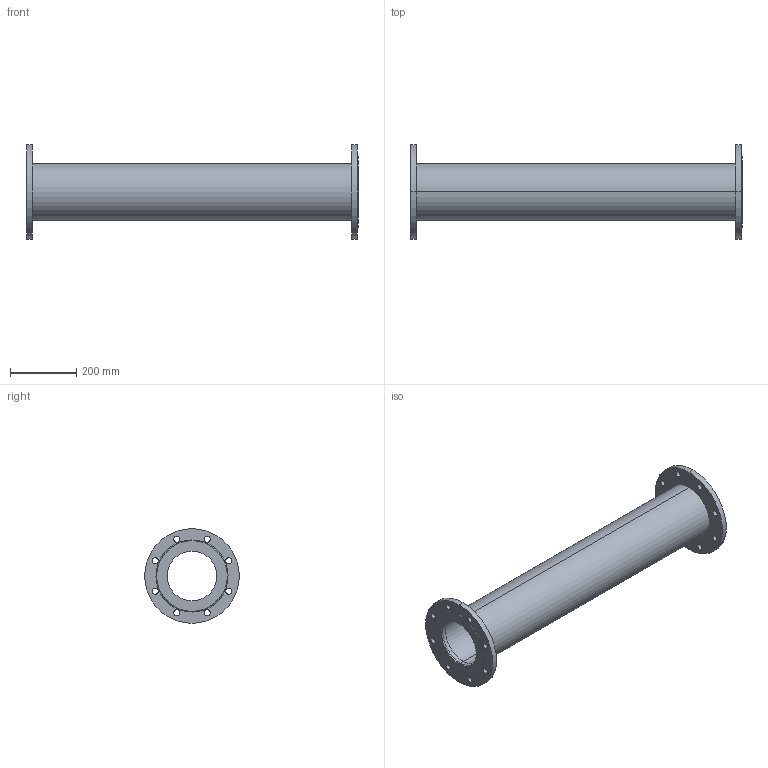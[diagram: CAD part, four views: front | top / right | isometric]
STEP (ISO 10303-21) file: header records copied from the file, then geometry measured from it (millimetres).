
FILE_DESCRIPTION(('STEP AP214'),'1');
FILE_NAME('U:/VDI-Daten/8500/8500_PN16_DN150_L1000.STP','2012-06-12T15:33:56',(' '),(' '),'Spatial InterOp 3D',' ',' ');
FILE_SCHEMA(('automotive_design'));
Length unit declared in the file: millimetre
Products named in the file (5): 3D-Objekt
Bounding box: 1000 x 285 x 285 mm (x, y, z)
Volume: 6524638.2 mm3; surface area: 1318728.2 mm2
Topology: 5 solids, 5 shells, 62 faces, 156 edges, 104 vertices
Faces by surface type: cylinder 48, plane 10, cone 4
Entity records: 2621 total; most frequent: DIRECTION 394, CARTESIAN_POINT 327, ORIENTED_EDGE 312, AXIS2_PLACEMENT_3D 171, EDGE_CURVE 156, EDGE_LOOP 104, VERTEX_POINT 104, CIRCLE 104
